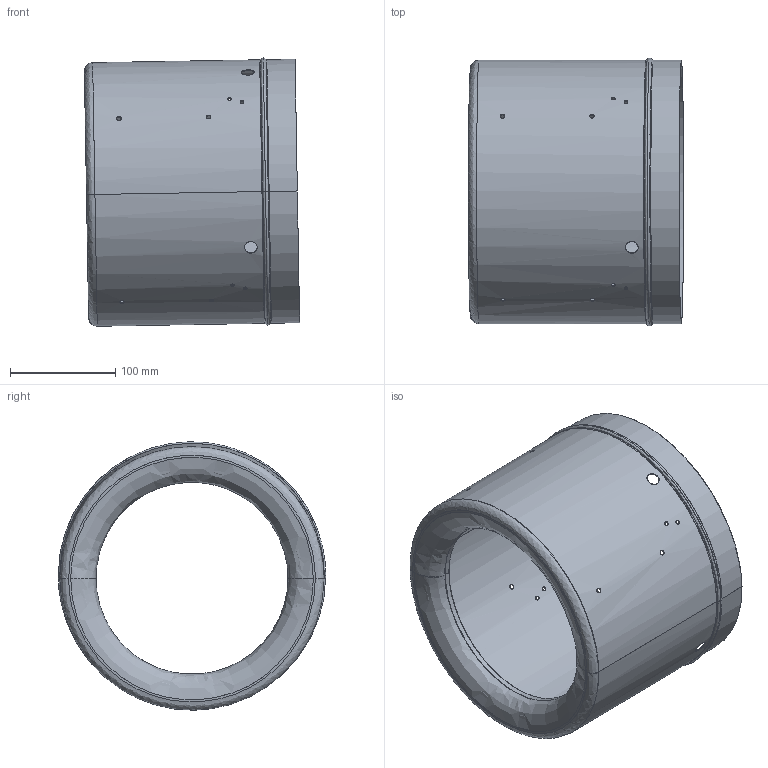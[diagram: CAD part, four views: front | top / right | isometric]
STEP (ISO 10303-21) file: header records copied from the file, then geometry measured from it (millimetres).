
FILE_DESCRIPTION(/* description */ (''),/* implementation_level */ '2;1');
FILE_NAME(/* name */ 'SE-A250',/* time_stamp */ '2024-01-15T15:23:33+08:00',/* author */ (''),/* organization */ (''),/* preprocessor_version */ 'ST-DEVELOPER v16.5',/* originating_system */ '',/* authorisation */ '');
FILE_SCHEMA (('CONFIG_CONTROL_DESIGN'));
Length unit declared in the file: millimetre
Products named in the file (1): Document
Bounding box: 204.14 x 253.8 x 254.62 mm (x, y, z)
Volume: 147986 mm3; surface area: 371225.8 mm2
Topology: 1 solids, 1 shells, 76 faces, 188 edges, 116 vertices
Faces by surface type: cylinder 48, bspline 24, plane 4
Entity records: 6062 total; most frequent: CARTESIAN_POINT 4702, ORIENTED_EDGE 376, EDGE_CURVE 188, B_SPLINE_CURVE_WITH_KNOTS 124, EDGE_LOOP 116, VERTEX_POINT 116, ADVANCED_FACE 76, FACE_OUTER_BOUND 76
